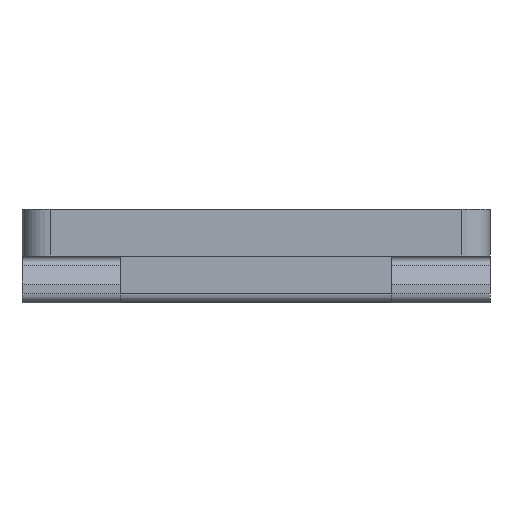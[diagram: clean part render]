
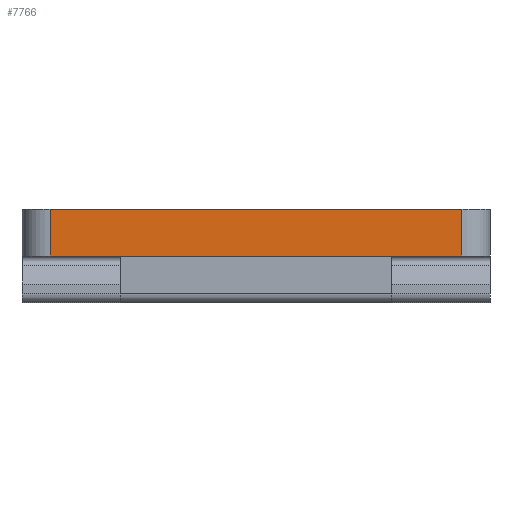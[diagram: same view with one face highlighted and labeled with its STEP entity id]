
A CAD part, front view. The second image highlights one B-rep face of the part: STEP entity #7766.
In plain terms, the highlighted planar face has unit normal (0, -1, 0).
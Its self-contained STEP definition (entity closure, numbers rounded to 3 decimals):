
#870=DIRECTION('',(1.,0.,0.));
#871=VECTOR('',#870,44.);
#872=CARTESIAN_POINT('',(-22.,-40.,0.));
#873=LINE('',#872,#871);
#1813=DIRECTION('',(1.,0.,0.));
#1814=VECTOR('',#1813,44.);
#1815=CARTESIAN_POINT('',(-22.,-40.,5.));
#1816=LINE('',#1815,#1814);
#2900=DIRECTION('',(0.,0.,-1.));
#2901=VECTOR('',#2900,5.);
#2902=CARTESIAN_POINT('',(-22.,-40.,5.));
#2903=LINE('',#2902,#2901);
#2904=DIRECTION('',(0.,0.,-1.));
#2905=VECTOR('',#2904,5.);
#2906=CARTESIAN_POINT('',(22.,-40.,5.));
#2907=LINE('',#2906,#2905);
#3921=CARTESIAN_POINT('',(-22.,-40.,0.));
#3923=VERTEX_POINT('',#3921);
#3927=CARTESIAN_POINT('',(-22.,-40.,5.));
#3928=VERTEX_POINT('',#3927);
#3930=CARTESIAN_POINT('',(22.,-40.,0.));
#3932=VERTEX_POINT('',#3930);
#3933=CARTESIAN_POINT('',(22.,-40.,5.));
#3934=VERTEX_POINT('',#3933);
#7754=CARTESIAN_POINT('',(-25.,-40.,0.));
#7755=DIRECTION('',(0.,-1.,0.));
#7756=DIRECTION('',(1.,0.,0.));
#7757=AXIS2_PLACEMENT_3D('',#7754,#7755,#7756);
#7758=PLANE('',#7757);
#7760=ORIENTED_EDGE('',*,*,#7759,.F.);
#7761=ORIENTED_EDGE('',*,*,#4496,.T.);
#7762=ORIENTED_EDGE('',*,*,#7747,.T.);
#7763=ORIENTED_EDGE('',*,*,#3984,.F.);
#7764=EDGE_LOOP('',(#7760,#7761,#7762,#7763));
#7765=FACE_OUTER_BOUND('',#7764,.F.);
#7766=ADVANCED_FACE('',(#7765),#7758,.T.);
#3984=EDGE_CURVE('',#3923,#3932,#873,.T.);
#4496=EDGE_CURVE('',#3928,#3934,#1816,.T.);
#7747=EDGE_CURVE('',#3934,#3932,#2907,.T.);
#7759=EDGE_CURVE('',#3928,#3923,#2903,.T.);
